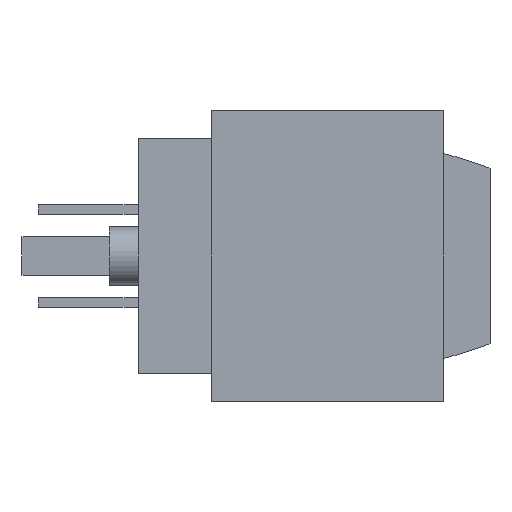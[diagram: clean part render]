
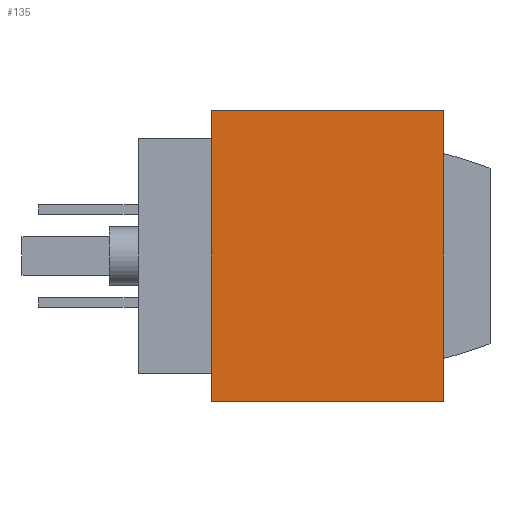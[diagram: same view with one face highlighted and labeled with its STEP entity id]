
A CAD part, front view. The second image highlights one B-rep face of the part: STEP entity #135.
In plain terms, the highlighted planar face has unit normal (0, -1, 0).
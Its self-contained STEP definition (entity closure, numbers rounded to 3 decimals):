
#135 = ADVANCED_FACE( '', ( #297 ), #298, .F. );
#297 = FACE_OUTER_BOUND( '', #480, .T. );
#298 = PLANE( '', #481 );
#480 = EDGE_LOOP( '', ( #816, #817, #818, #819 ) );
#481 = AXIS2_PLACEMENT_3D( '', #820, #821, #822 );
#816 = ORIENTED_EDGE( '', *, *, #1128, .T. );
#817 = ORIENTED_EDGE( '', *, *, #1133, .F. );
#818 = ORIENTED_EDGE( '', *, *, #1038, .F. );
#819 = ORIENTED_EDGE( '', *, *, #1134, .T. );
#820 = CARTESIAN_POINT( '', ( -10., -17.8, 12.5 ) );
#821 = DIRECTION( '', ( 0., 1., 0. ) );
#822 = DIRECTION( '', ( 0., 0., 1. ) );
#1038 = EDGE_CURVE( '', #1232, #1234, #1235, .T. );
#1128 = EDGE_CURVE( '', #1370, #1368, #1371, .T. );
#1133 = EDGE_CURVE( '', #1234, #1368, #1376, .T. );
#1134 = EDGE_CURVE( '', #1232, #1370, #1377, .T. );
#1232 = VERTEX_POINT( '', #1507 );
#1234 = VERTEX_POINT( '', #1510 );
#1235 = LINE( '', #1511, #1512 );
#1368 = VERTEX_POINT( '', #1701 );
#1370 = VERTEX_POINT( '', #1704 );
#1371 = LINE( '', #1705, #1706 );
#1376 = LINE( '', #1713, #1714 );
#1377 = LINE( '', #1715, #1716 );
#1507 = CARTESIAN_POINT( '', ( -10., -17.8, 12.5 ) );
#1510 = CARTESIAN_POINT( '', ( 10., -17.8, 12.5 ) );
#1511 = CARTESIAN_POINT( '', ( -10., -17.8, 12.5 ) );
#1512 = VECTOR( '', #1796, 1000. );
#1701 = CARTESIAN_POINT( '', ( 10., -17.8, -12.5 ) );
#1704 = CARTESIAN_POINT( '', ( -10., -17.8, -12.5 ) );
#1705 = CARTESIAN_POINT( '', ( -10., -17.8, -12.5 ) );
#1706 = VECTOR( '', #1887, 1000. );
#1713 = CARTESIAN_POINT( '', ( 10., -17.8, 12.5 ) );
#1714 = VECTOR( '', #1890, 1000. );
#1715 = CARTESIAN_POINT( '', ( -10., -17.8, 12.5 ) );
#1716 = VECTOR( '', #1891, 1000. );
#1796 = DIRECTION( '', ( 1., 0., 0. ) );
#1887 = DIRECTION( '', ( 1., 0., 0. ) );
#1890 = DIRECTION( '', ( 0., 0., -1. ) );
#1891 = DIRECTION( '', ( 0., 0., -1. ) );
